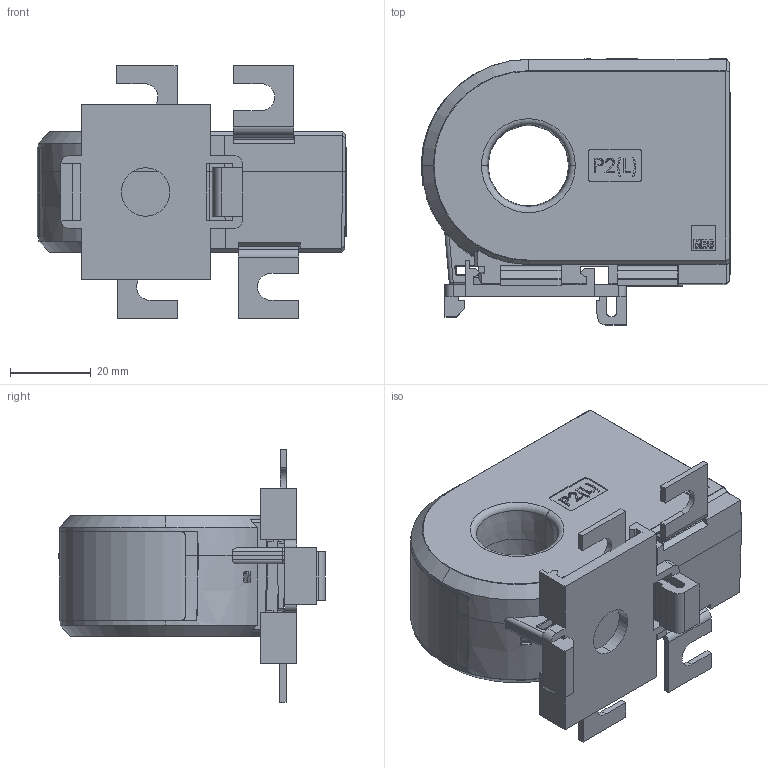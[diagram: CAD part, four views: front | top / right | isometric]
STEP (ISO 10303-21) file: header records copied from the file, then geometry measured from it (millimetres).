
FILE_DESCRIPTION (( 'STEP AP214' ), '1' );
FILE_NAME ('W20.STEP', '2014-07-17T05:18:24', ( 'User' ), ( 'Bender' ), 'SwSTEP 2.0', 'SolidWorks 2013', '' );
FILE_SCHEMA (( 'AUTOMOTIVE_DESIGN' ));
Length unit declared in the file: millimetre
Products named in the file (7): Schild_45x22_1; W20_OT_8polig_einfach_040205_1; W20_UT_8polig_040205_1; Rastfu¯_55014; Schild-gebogen2_60x22_W20; Schraubfu¯-Blech; W20
Assembly tree (9 placements, depth 2):
  W20
    Schraubfu¯-Blech  x4
    Schild-gebogen2_60x22_W20
    Rastfu¯_55014
    W20_UT_8polig_040205_1
    W20_OT_8polig_einfach_040205_1
    Schild_45x22_1
Bounding box: 76.77 x 66 x 62.7 mm (x, y, z)
Volume: 39504.1 mm3; surface area: 51121 mm2
Topology: 9 solids, 9 shells, 1413 faces, 3892 edges, 2525 vertices
Faces by surface type: plane 882, cylinder 231, bspline 219, cone 47, torus 22, sphere 12
Entity records: 51761 total; most frequent: CARTESIAN_POINT 19001, ORIENTED_EDGE 7458, DIRECTION 5716, EDGE_CURVE 3729, LINE 2598, VECTOR 2598, VERTEX_POINT 2429, AXIS2_PLACEMENT_3D 1559
